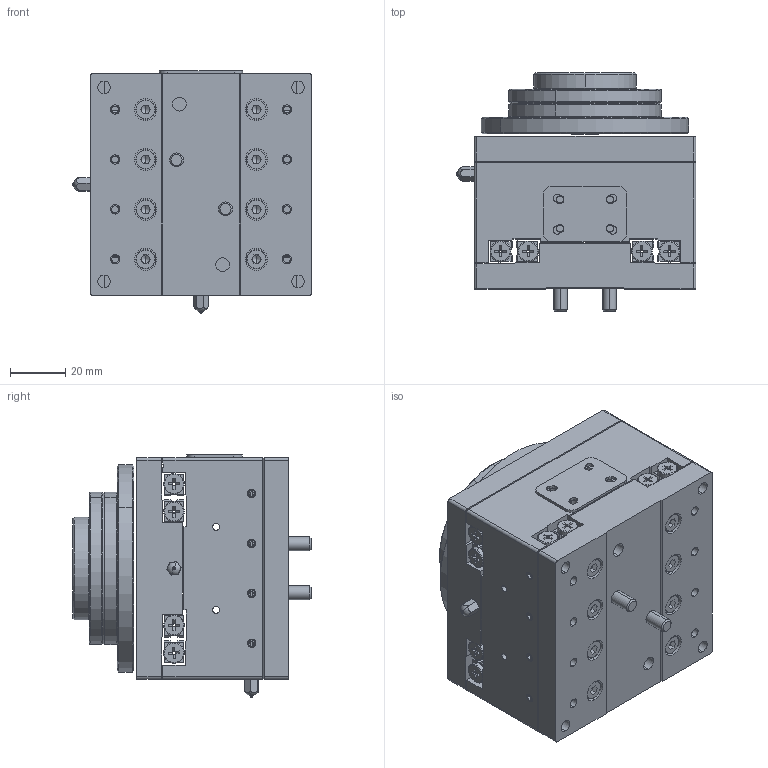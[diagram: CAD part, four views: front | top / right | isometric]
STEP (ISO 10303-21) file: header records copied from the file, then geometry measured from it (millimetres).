
FILE_DESCRIPTION (( 'STEP AP203' ), '1' );
FILE_NAME ('GAU10-CCS.STEP', '2014-08-07T06:22:07', ( 'user' ), ( '' ), 'SwSTEP 2.0', 'SolidWorks 2014', '' );
FILE_SCHEMA (( 'CONFIG_CONTROL_DESIGN' ));
Length unit declared in the file: millimetre
Products named in the file (1): GAU10-CCS
Bounding box: 86.5 x 86 x 87.5 mm (x, y, z)
Surface area: 79698.5 mm2 (no closed solid volume)
Topology: 0 solids, 82 shells, 1016 faces, 3343 edges, 2338 vertices
Faces by surface type: plane 588, cylinder 228, cone 112, torus 80, sphere 8
Entity records: 38147 total; most frequent: CARTESIAN_POINT 9178, DIRECTION 6119, ORIENTED_EDGE 5260, EDGE_CURVE 3309, VERTEX_POINT 2332, AXIS2_PLACEMENT_3D 2079, LINE 1961, VECTOR 1961
